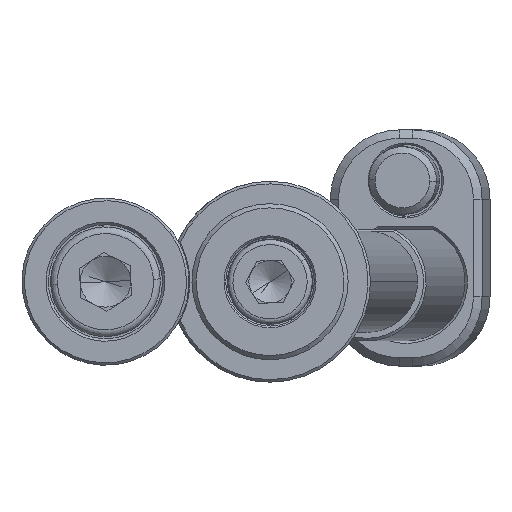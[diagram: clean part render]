
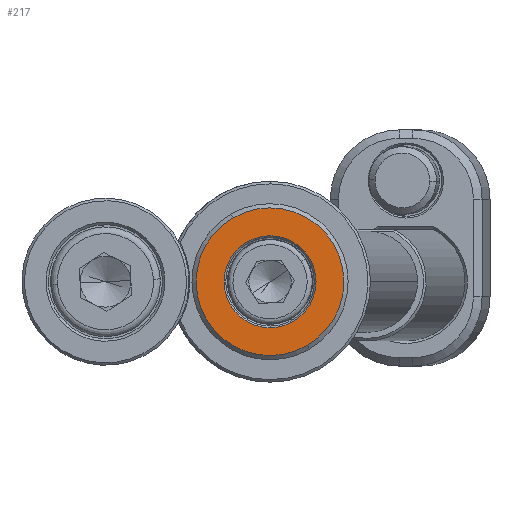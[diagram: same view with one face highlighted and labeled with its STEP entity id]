
A CAD part, front view. The second image highlights one B-rep face of the part: STEP entity #217.
In plain terms, the highlighted planar face has unit normal (0, -1, 0).
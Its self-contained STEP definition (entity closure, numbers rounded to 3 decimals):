
#217 = ADVANCED_FACE ( 'NONE', ( #13047, #5041 ), #12971, .F. ) ;
#492 = CARTESIAN_POINT ( 'NONE',  ( 0., -4., 0. ) ) ;
#529 = AXIS2_PLACEMENT_3D ( 'NONE', #492, #12767, #10422 ) ;
#914 = DIRECTION ( 'NONE',  ( -0.505, 0., 0.863 ) ) ;
#1631 = EDGE_CURVE ( 'NONE', #2253, #10802, #10683, .T. ) ;
#1919 = DIRECTION ( 'NONE',  ( -0.505, 0., 0.863 ) ) ;
#2253 = VERTEX_POINT ( 'NONE', #5728 ) ;
#2719 = CARTESIAN_POINT ( 'NONE',  ( 0., -4., 0. ) ) ;
#3175 = DIRECTION ( 'NONE',  ( -0.505, 0., 0.863 ) ) ;
#3312 = CARTESIAN_POINT ( 'NONE',  ( 0., -4., 0. ) ) ;
#4838 = AXIS2_PLACEMENT_3D ( 'NONE', #12890, #11871, #1919 ) ;
#5041 = FACE_OUTER_BOUND ( 'NONE', #10894, .T. ) ;
#5728 = CARTESIAN_POINT ( 'NONE',  ( 2.753, -4., -4.704 ) ) ;
#5977 = ORIENTED_EDGE ( 'NONE', *, *, #11669, .T. ) ;
#6145 = DIRECTION ( 'NONE',  ( -0.505, 0., 0.863 ) ) ;
#6172 = VERTEX_POINT ( 'NONE', #8777 ) ;
#7215 = AXIS2_PLACEMENT_3D ( 'NONE', #2719, #11788, #6145 ) ;
#7247 = ORIENTED_EDGE ( 'NONE', *, *, #1631, .T. ) ;
#7255 = ORIENTED_EDGE ( 'NONE', *, *, #9651, .T. ) ;
#7748 = AXIS2_PLACEMENT_3D ( 'NONE', #3312, #10935, #3175 ) ;
#7785 = CARTESIAN_POINT ( 'NONE',  ( -2.753, -4., 4.704 ) ) ;
#8777 = CARTESIAN_POINT ( 'NONE',  ( -4.42, -4., 7.552 ) ) ;
#8952 = CARTESIAN_POINT ( 'NONE',  ( 4.42, -4., -7.552 ) ) ;
#9651 = EDGE_CURVE ( 'NONE', #10802, #2253, #10209, .T. ) ;
#9762 = AXIS2_PLACEMENT_3D ( 'NONE', #10691, #12972, #914 ) ;
#10012 = CIRCLE ( 'NONE', #529, 8.75 ) ;
#10209 = CIRCLE ( 'NONE', #7215, 5.45 ) ;
#10422 = DIRECTION ( 'NONE',  ( -0.505, 0., 0.863 ) ) ;
#10683 = CIRCLE ( 'NONE', #9762, 5.45 ) ;
#10691 = CARTESIAN_POINT ( 'NONE',  ( 0., -4., 0. ) ) ;
#10773 = VERTEX_POINT ( 'NONE', #8952 ) ;
#10802 = VERTEX_POINT ( 'NONE', #7785 ) ;
#10894 = EDGE_LOOP ( 'NONE', ( #11484, #5977 ) ) ;
#10935 = DIRECTION ( 'NONE',  ( 0., -1., 0. ) ) ;
#11484 = ORIENTED_EDGE ( 'NONE', *, *, #12949, .T. ) ;
#11669 = EDGE_CURVE ( 'NONE', #10773, #6172, #10012, .T. ) ;
#11788 = DIRECTION ( 'NONE',  ( 0., 1., 0. ) ) ;
#11871 = DIRECTION ( 'NONE',  ( 0., 1., 0. ) ) ;
#12396 = EDGE_LOOP ( 'NONE', ( #7247, #7255 ) ) ;
#12767 = DIRECTION ( 'NONE',  ( 0., -1., 0. ) ) ;
#12890 = CARTESIAN_POINT ( 'NONE',  ( -4.531, -4., -2.652 ) ) ;
#12949 = EDGE_CURVE ( 'NONE', #6172, #10773, #13769, .T. ) ;
#12971 = PLANE ( 'NONE',  #4838 ) ;
#12972 = DIRECTION ( 'NONE',  ( 0., 1., 0. ) ) ;
#13047 = FACE_BOUND ( 'NONE', #12396, .T. ) ;
#13769 = CIRCLE ( 'NONE', #7748, 8.75 ) ;
